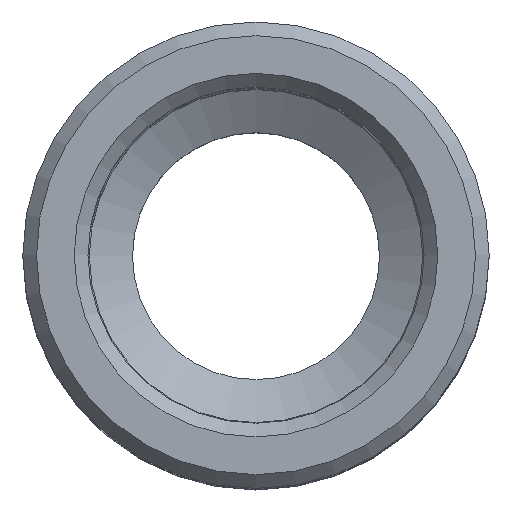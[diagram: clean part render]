
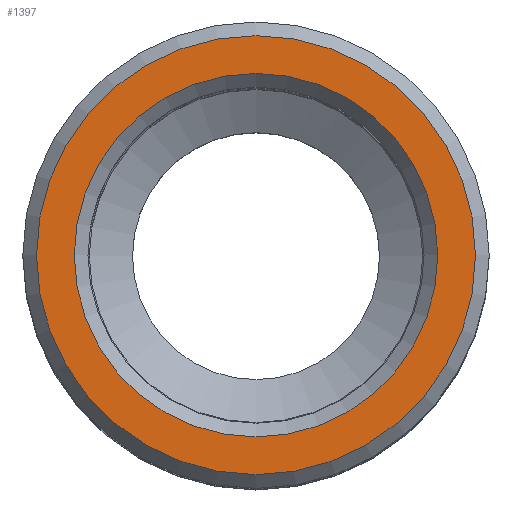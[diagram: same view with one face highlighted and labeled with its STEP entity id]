
A CAD part, top view. The second image highlights one B-rep face of the part: STEP entity #1397.
In plain terms, the highlighted planar face has unit normal (0, 0, 1) as drawn and (0, 1, 0) by its records, which use the part's own axes.
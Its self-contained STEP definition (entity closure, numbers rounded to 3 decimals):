
#569=ORIENTED_EDGE('',*,*,#734,.F.);
#570=ORIENTED_EDGE('',*,*,#733,.T.);
#643=CIRCLE('',#1309,6.625);
#644=CIRCLE('',#1311,8.);
#688=VERTEX_POINT('',#1184);
#689=VERTEX_POINT('',#1187);
#733=EDGE_CURVE('',#688,#688,#643,.T.);
#734=EDGE_CURVE('',#689,#689,#644,.T.);
#794=EDGE_LOOP('',(#569));
#795=EDGE_LOOP('',(#570));
#884=FACE_BOUND('',#794,.T.);
#885=FACE_BOUND('',#795,.T.);
#1010=DIRECTION('',(0.,-1.,0.));
#1011=DIRECTION('',(0.,0.,-6.625));
#1012=DIRECTION('',(0.,1.,0.));
#1013=DIRECTION('',(1.,0.,0.));
#1014=DIRECTION('',(0.,-1.,0.));
#1015=DIRECTION('',(0.,0.,-8.));
#1184=CARTESIAN_POINT('',(96.411,170.122,0.));
#1185=CARTESIAN_POINT('',(89.786,170.122,0.));
#1186=CARTESIAN_POINT('',(89.786,170.122,0.));
#1187=CARTESIAN_POINT('',(97.786,170.122,0.));
#1188=CARTESIAN_POINT('',(89.786,170.122,0.));
#1309=AXIS2_PLACEMENT_3D('',#1185,#1010,#1011);
#1310=AXIS2_PLACEMENT_3D('',#1186,#1012,#1013);
#1311=AXIS2_PLACEMENT_3D('',#1188,#1014,#1015);
#1375=PLANE('',#1310);
#1397=ADVANCED_FACE('',(#884,#885),#1375,.T.);
